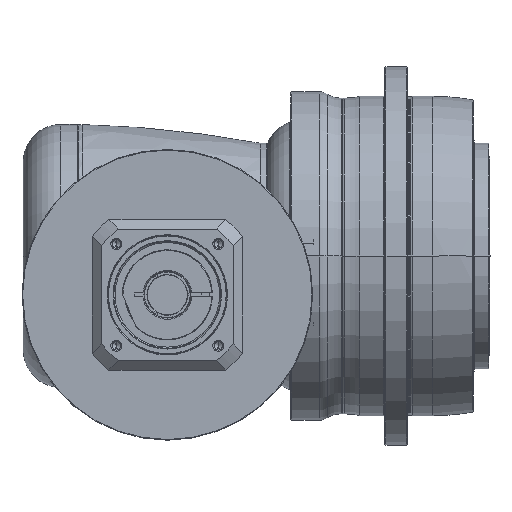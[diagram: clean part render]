
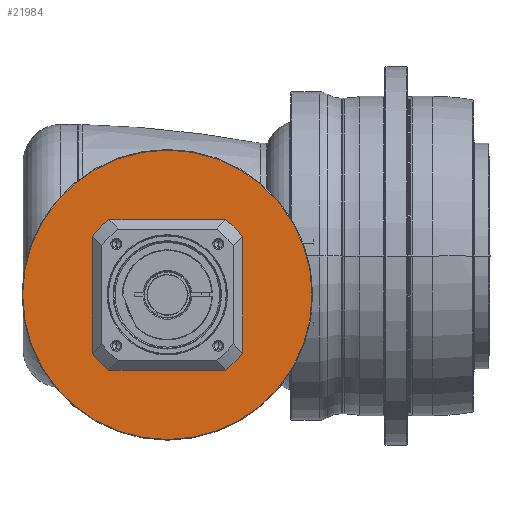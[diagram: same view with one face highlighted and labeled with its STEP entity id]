
A CAD part, front view. The second image highlights one B-rep face of the part: STEP entity #21984.
In plain terms, the highlighted planar face has unit normal (0, -1, 0) as drawn and (1, 0, 0) by its records, which use the part's own axes.
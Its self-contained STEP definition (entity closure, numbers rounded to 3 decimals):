
#20615=CARTESIAN_POINT('',(-4.5,0.,0.));
#20616=DIRECTION('',(-1.,0.,0.));
#20617=DIRECTION('',(0.,-1.,0.));
#20618=AXIS2_PLACEMENT_3D('',#20615,#20616,#20617);
#20620=CARTESIAN_POINT('',(-4.5,0.,0.));
#20621=DIRECTION('',(-1.,0.,0.));
#20622=DIRECTION('',(0.,1.,0.));
#20623=AXIS2_PLACEMENT_3D('',#20620,#20621,#20622);
#20625=CARTESIAN_POINT('',(-4.5,0.,0.));
#20626=DIRECTION('',(-1.,0.,0.));
#20627=DIRECTION('',(0.,-1.,0.));
#20628=AXIS2_PLACEMENT_3D('',#20625,#20626,#20627);
#20630=CARTESIAN_POINT('',(-4.5,0.,0.));
#20631=DIRECTION('',(-1.,0.,0.));
#20632=DIRECTION('',(0.,1.,0.));
#20633=AXIS2_PLACEMENT_3D('',#20630,#20631,#20632);
#20922=CARTESIAN_POINT('',(-4.5,-115.5,0.));
#20923=CARTESIAN_POINT('',(-4.5,115.5,0.));
#20924=VERTEX_POINT('',#20922);
#20925=VERTEX_POINT('',#20923);
#20980=CARTESIAN_POINT('',(-4.5,-59.75,0.));
#20981=CARTESIAN_POINT('',(-4.5,59.75,0.));
#20982=VERTEX_POINT('',#20980);
#20983=VERTEX_POINT('',#20981);
#21969=CARTESIAN_POINT('',(-4.5,0.,0.));
#21970=DIRECTION('',(1.,0.,0.));
#21971=DIRECTION('',(0.,-1.,0.));
#21972=AXIS2_PLACEMENT_3D('',#21969,#21970,#21971);
#21973=PLANE('',#21972);
#21974=ORIENTED_EDGE('',*,*,#21925,.T.);
#21975=ORIENTED_EDGE('',*,*,#21910,.T.);
#21976=EDGE_LOOP('',(#21974,#21975));
#21977=FACE_OUTER_BOUND('',#21976,.F.);
#21979=ORIENTED_EDGE('',*,*,#21978,.F.);
#21981=ORIENTED_EDGE('',*,*,#21980,.F.);
#21982=EDGE_LOOP('',(#21979,#21981));
#21983=FACE_BOUND('',#21982,.F.);
#21984=ADVANCED_FACE('',(#21977,#21983),#21973,.T.);
#20619=CIRCLE('',#20618,59.75);
#20624=CIRCLE('',#20623,59.75);
#20629=CIRCLE('',#20628,115.5);
#20634=CIRCLE('',#20633,115.5);
#21910=EDGE_CURVE('',#20925,#20924,#20634,.T.);
#21925=EDGE_CURVE('',#20924,#20925,#20629,.T.);
#21978=EDGE_CURVE('',#20982,#20983,#20619,.T.);
#21980=EDGE_CURVE('',#20983,#20982,#20624,.T.);
